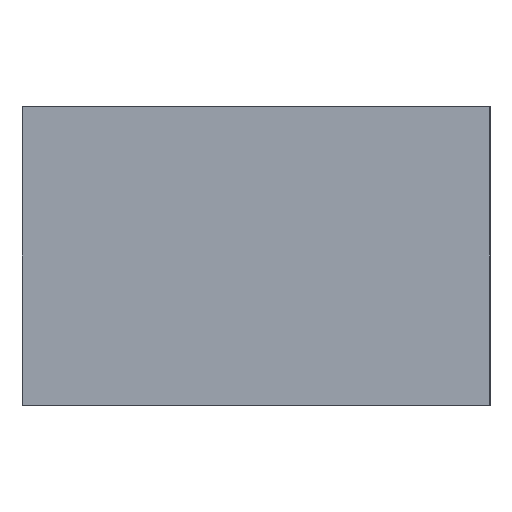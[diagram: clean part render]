
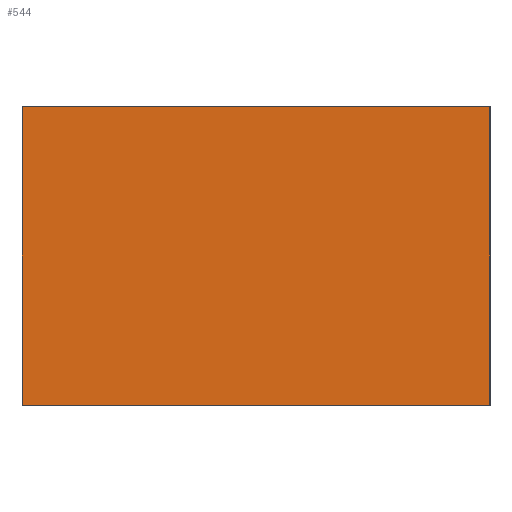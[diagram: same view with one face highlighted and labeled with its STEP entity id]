
A CAD part, left-side view. The second image highlights one B-rep face of the part: STEP entity #544.
In plain terms, the highlighted planar face has unit normal (-1, 0, 0).
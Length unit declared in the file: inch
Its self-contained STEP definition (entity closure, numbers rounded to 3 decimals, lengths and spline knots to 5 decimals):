
#544 = ADVANCED_FACE ( 'NONE', ( #845 ), #987, .F. ) ;
#545 = EDGE_LOOP ( 'NONE', ( #547, #548, #650, #645 ) ) ;
#547 = ORIENTED_EDGE ( 'NONE', *, *, #583, .T. ) ;
#548 = ORIENTED_EDGE ( 'NONE', *, *, #561, .F. ) ;
#553 = EDGE_CURVE ( 'NONE', #615, #566, #966, .T. ) ;
#561 = EDGE_CURVE ( 'NONE', #566, #562, #982, .T. ) ;
#562 = VERTEX_POINT ( 'NONE', #1008 ) ;
#566 = VERTEX_POINT ( 'NONE', #848 ) ;
#583 = EDGE_CURVE ( 'NONE', #602, #562, #994, .T. ) ;
#602 = VERTEX_POINT ( 'NONE', #946 ) ;
#609 = EDGE_CURVE ( 'NONE', #615, #602, #919, .T. ) ;
#615 = VERTEX_POINT ( 'NONE', #880 ) ;
#645 = ORIENTED_EDGE ( 'NONE', *, *, #609, .T. ) ;
#650 = ORIENTED_EDGE ( 'NONE', *, *, #553, .F. ) ;
#845 = FACE_OUTER_BOUND ( 'NONE', #545, .T. ) ;
#848 = CARTESIAN_POINT ( 'NONE',  ( -2.96, 0.785, 0.5 ) ) ;
#880 = CARTESIAN_POINT ( 'NONE',  ( -2.96, 0.785, -0.5 ) ) ;
#883 = DIRECTION ( 'NONE',  ( 0., 0., 1. ) ) ;
#884 = VECTOR ( 'NONE', #883, 39.37008 ) ;
#916 = DIRECTION ( 'NONE',  ( 0., -1., 0. ) ) ;
#917 = VECTOR ( 'NONE', #916, 39.37008 ) ;
#918 = CARTESIAN_POINT ( 'NONE',  ( -2.96, 0.785, -0.5 ) ) ;
#919 = LINE ( 'NONE', #918, #917 ) ;
#932 = CARTESIAN_POINT ( 'NONE',  ( -2.96, 0.785, -0.5 ) ) ;
#933 = AXIS2_PLACEMENT_3D ( 'NONE', #932, #984, #983 ) ;
#946 = CARTESIAN_POINT ( 'NONE',  ( -2.96, -0.785, -0.5 ) ) ;
#965 = CARTESIAN_POINT ( 'NONE',  ( -2.96, 0.785, -0.5 ) ) ;
#966 = LINE ( 'NONE', #965, #884 ) ;
#982 = LINE ( 'NONE', #1012, #1011 ) ;
#983 = DIRECTION ( 'NONE',  ( 0., 0., -1. ) ) ;
#984 = DIRECTION ( 'NONE',  ( 1., 0., 0. ) ) ;
#987 = PLANE ( 'NONE',  #933 ) ;
#991 = DIRECTION ( 'NONE',  ( 0., 0., 1. ) ) ;
#992 = VECTOR ( 'NONE', #991, 39.37008 ) ;
#993 = CARTESIAN_POINT ( 'NONE',  ( -2.96, -0.785, -0.5 ) ) ;
#994 = LINE ( 'NONE', #993, #992 ) ;
#1008 = CARTESIAN_POINT ( 'NONE',  ( -2.96, -0.785, 0.5 ) ) ;
#1010 = DIRECTION ( 'NONE',  ( 0., -1., 0. ) ) ;
#1011 = VECTOR ( 'NONE', #1010, 39.37008 ) ;
#1012 = CARTESIAN_POINT ( 'NONE',  ( -2.96, 0.785, 0.5 ) ) ;
